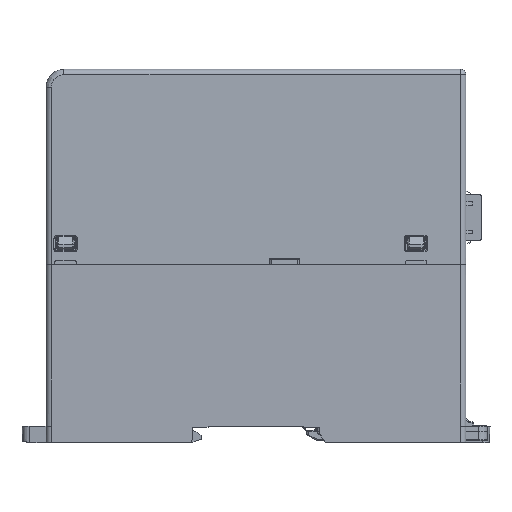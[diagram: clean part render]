
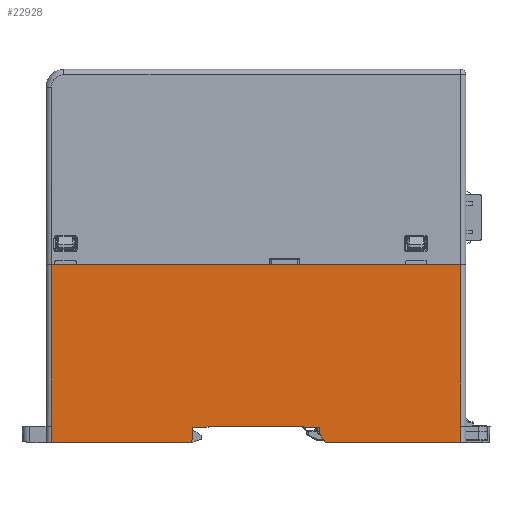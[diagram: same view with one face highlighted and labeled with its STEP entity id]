
A CAD part, left-side view. The second image highlights one B-rep face of the part: STEP entity #22928.
In plain terms, the highlighted planar face has unit normal (-1, 0, -0.013).
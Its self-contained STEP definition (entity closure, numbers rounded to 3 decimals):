
#366=DIRECTION('',(0.,1.,0.));
#367=VECTOR('',#366,37.959);
#368=CARTESIAN_POINT('',(-16.595,-57.48,0.));
#369=LINE('',#368,#367);
#376=CARTESIAN_POINT('',(-16.595,-57.48,0.));
#481=CARTESIAN_POINT('',(-16.595,57.48,0.));
#489=DIRECTION('',(0.,1.,0.));
#490=VECTOR('',#489,39.459);
#491=CARTESIAN_POINT('',(-16.595,18.021,0.));
#492=LINE('',#491,#490);
#1240=DIRECTION('',(0.,1.,0.));
#1241=VECTOR('',#1240,26.964);
#1242=CARTESIAN_POINT('',(-16.656,-13.482,4.6));
#1243=LINE('',#1242,#1241);
#1879=DIRECTION('',(0.011,-0.547,-0.837));
#1880=VECTOR('',#1879,2.982);
#1881=CARTESIAN_POINT('',(-16.628,-17.89,
2.497));
#1882=LINE('',#1881,#1880);
#1883=DIRECTION('',(-0.013,0.004,1.));
#1884=VECTOR('',#1883,4.642);
#1885=CARTESIAN_POINT('',(-16.595,57.48,0.));
#1886=LINE('',#1885,#1884);
#1887=DIRECTION('',(-0.013,0.,1.));
#1888=VECTOR('',#1887,45.362);
#1889=CARTESIAN_POINT('',(-16.656,57.5,4.641));
#1890=LINE('',#1889,#1888);
#1891=DIRECTION('',(0.013,0.,-1.));
#1892=VECTOR('',#1891,45.358);
#1893=CARTESIAN_POINT('',(-17.25,-57.5,50.));
#1894=LINE('',#1893,#1892);
#1895=DIRECTION('',(0.013,0.004,-1.));
#1896=VECTOR('',#1895,4.646);
#1897=CARTESIAN_POINT('',(-16.656,-57.5,
4.646));
#1898=LINE('',#1897,#1896);
#1911=DIRECTION('',(0.013,-0.052,-0.999));
#1912=VECTOR('',#1911,1.806);
#1913=CARTESIAN_POINT('',(-16.652,-17.796,4.3));
#1914=LINE('',#1913,#1912);
#1943=DIRECTION('',(0.,1.,0.));
#1944=VECTOR('',#1943,4.314);
#1945=CARTESIAN_POINT('',(-16.652,-17.796,4.3));
#1946=LINE('',#1945,#1944);
#1967=DIRECTION('',(0.,1.,0.));
#1968=VECTOR('',#1967,4.314);
#1969=CARTESIAN_POINT('',(-16.652,13.482,4.3));
#1970=LINE('',#1969,#1968);
#2389=DIRECTION('',(0.,1.,0.));
#2390=VECTOR('',#2389,115.);
#2391=CARTESIAN_POINT('',(-17.25,-57.5,50.));
#2392=LINE('',#2391,#2390);
#7361=DIRECTION('',(0.013,0.052,-0.999));
#7362=VECTOR('',#7361,4.306);
#7363=CARTESIAN_POINT('',(-16.652,17.796,4.3));
#7364=LINE('',#7363,#7362);
#15726=DIRECTION('',(0.013,0.,-1.));
#15727=VECTOR('',#15726,0.3);
#15728=CARTESIAN_POINT('',(-16.656,13.482,4.6));
#15729=LINE('',#15728,#15727);
#16331=DIRECTION('',(0.013,0.,-1.));
#16332=VECTOR('',#16331,0.3);
#16333=CARTESIAN_POINT('',(-16.656,-13.482,4.6));
#16334=LINE('',#16333,#16332);
#18772=CARTESIAN_POINT('',(-16.652,-13.482,4.3));
#18773=VERTEX_POINT('',#18772);
#18774=CARTESIAN_POINT('',(-16.656,-13.482,4.6));
#18775=VERTEX_POINT('',#18774);
#18776=CARTESIAN_POINT('',(-16.652,-17.796,4.3));
#18777=VERTEX_POINT('',#18776);
#18982=CARTESIAN_POINT('',(-17.25,-57.5,50.));
#18983=CARTESIAN_POINT('',(-17.25,57.5,50.));
#18984=VERTEX_POINT('',#18982);
#18985=VERTEX_POINT('',#18983);
#19033=CARTESIAN_POINT('',(-16.656,13.482,4.6));
#19034=VERTEX_POINT('',#19033);
#19035=CARTESIAN_POINT('',(-16.652,13.482,4.3));
#19036=VERTEX_POINT('',#19035);
#19037=CARTESIAN_POINT('',(-16.652,17.796,4.3));
#19038=VERTEX_POINT('',#19037);
#19039=CARTESIAN_POINT('',(-16.595,18.021,0.));
#19040=VERTEX_POINT('',#19039);
#19042=VERTEX_POINT('',#376);
#19043=CARTESIAN_POINT('',(-16.656,-57.5,
4.646));
#19044=VERTEX_POINT('',#19043);
#19047=CARTESIAN_POINT('',(-16.656,57.5,
4.641));
#19048=VERTEX_POINT('',#19047);
#19051=VERTEX_POINT('',#481);
#20632=CARTESIAN_POINT('',(-16.628,-17.89,
2.497));
#20633=CARTESIAN_POINT('',(-16.595,-19.521,0.));
#20634=VERTEX_POINT('',#20632);
#20635=VERTEX_POINT('',#20633);
#22895=CARTESIAN_POINT('',(-17.25,-60.861,50.));
#22896=DIRECTION('',(1.,0.,0.013));
#22897=DIRECTION('',(0.,1.,0.));
#22898=AXIS2_PLACEMENT_3D('',#22895,#22896,#22897);
#22899=PLANE('',#22898);
#22900=ORIENTED_EDGE('',*,*,#22880,.F.);
#22902=ORIENTED_EDGE('',*,*,#22901,.F.);
#22904=ORIENTED_EDGE('',*,*,#22903,.T.);
#22906=ORIENTED_EDGE('',*,*,#22905,.F.);
#22907=ORIENTED_EDGE('',*,*,#22162,.T.);
#22909=ORIENTED_EDGE('',*,*,#22908,.T.);
#22911=ORIENTED_EDGE('',*,*,#22910,.T.);
#22913=ORIENTED_EDGE('',*,*,#22912,.T.);
#22914=ORIENTED_EDGE('',*,*,#20959,.T.);
#22916=ORIENTED_EDGE('',*,*,#22915,.T.);
#22918=ORIENTED_EDGE('',*,*,#22917,.T.);
#22920=ORIENTED_EDGE('',*,*,#22919,.F.);
#22922=ORIENTED_EDGE('',*,*,#22921,.T.);
#22924=ORIENTED_EDGE('',*,*,#22923,.T.);
#22925=ORIENTED_EDGE('',*,*,#20847,.T.);
#22926=EDGE_LOOP('',(#22900,#22902,#22904,#22906,#22907,#22909,#22911,#22913,
#22914,#22916,#22918,#22920,#22922,#22924,#22925));
#22927=FACE_OUTER_BOUND('',#22926,.F.);
#22928=ADVANCED_FACE('',(#22927),#22899,.F.);
#20847=EDGE_CURVE('',#19042,#20635,#369,.T.);
#20959=EDGE_CURVE('',#19040,#19051,#492,.T.);
#22162=EDGE_CURVE('',#18775,#19034,#1243,.T.);
#22880=EDGE_CURVE('',#20634,#20635,#1882,.T.);
#22901=EDGE_CURVE('',#18777,#20634,#1914,.T.);
#22903=EDGE_CURVE('',#18777,#18773,#1946,.T.);
#22905=EDGE_CURVE('',#18775,#18773,#16334,.T.);
#22908=EDGE_CURVE('',#19034,#19036,#15729,.T.);
#22910=EDGE_CURVE('',#19036,#19038,#1970,.T.);
#22912=EDGE_CURVE('',#19038,#19040,#7364,.T.);
#22915=EDGE_CURVE('',#19051,#19048,#1886,.T.);
#22917=EDGE_CURVE('',#19048,#18985,#1890,.T.);
#22919=EDGE_CURVE('',#18984,#18985,#2392,.T.);
#22921=EDGE_CURVE('',#18984,#19044,#1894,.T.);
#22923=EDGE_CURVE('',#19044,#19042,#1898,.T.);
